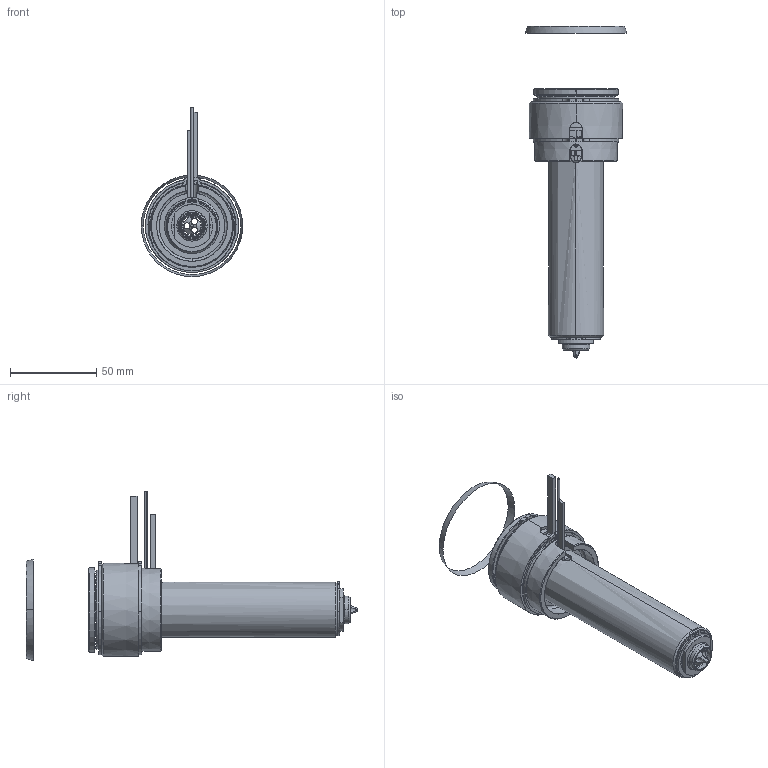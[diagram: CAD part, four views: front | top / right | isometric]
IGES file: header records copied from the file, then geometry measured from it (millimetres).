
Start section: SolidWorks IGES file using analytic representation for surfaces
Global section: file name: C:\Documents and Settings\ws-20\Desktop\TEM\UGEP5503-S-A-0 [Øf-1.55 ØC-12].IGS; native system: SolidWorks 2012; preprocessor: SolidWorks 2012; author: ws-20; date: 120427.080236; units: millimetre
Bounding box: 58.79 x 192.24 x 98.01 mm (x, y, z)
Surface area: 69378.6 mm2 (no closed solid volume)
Topology: 0 solids, 0 shells, 177 faces, 3632 edges, 3632 vertices
Faces by surface type: revolution 115, bspline 62
